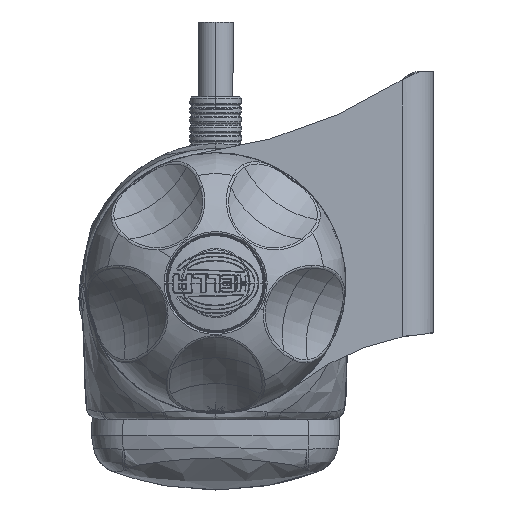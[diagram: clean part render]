
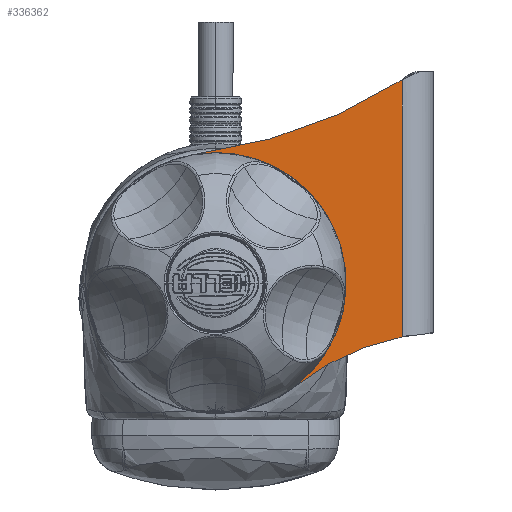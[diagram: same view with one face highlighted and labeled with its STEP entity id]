
A CAD part, left-side view. The second image highlights one B-rep face of the part: STEP entity #336362.
In plain terms, the highlighted planar face has unit normal (-1, 0, 0).
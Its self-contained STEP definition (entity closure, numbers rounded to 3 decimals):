
#336304=AXIS2_PLACEMENT_3D('Plane Axis2P3D',#336301,#336302,#336303) ;
#336184=CARTESIAN_POINT('Vertex',(-247.,7.,20.)) ;
#336188=CARTESIAN_POINT('Control Point',(-247.,7.,20.)) ;
#336189=CARTESIAN_POINT('Control Point',(-247.,7.,18.9)) ;
#336190=CARTESIAN_POINT('Control Point',(-247.,6.784,17.801)) ;
#336191=CARTESIAN_POINT('Control Point',(-247.,6.352,16.758)) ;
#336192=CARTESIAN_POINT('Control Point',(-247.,5.102,14.898)) ;
#336193=CARTESIAN_POINT('Control Point',(-247.,3.242,13.648)) ;
#336194=CARTESIAN_POINT('Control Point',(-247.,2.199,13.216)) ;
#336195=CARTESIAN_POINT('Control Point',(-247.,0.,12.784)) ;
#336196=CARTESIAN_POINT('Control Point',(-247.,-2.199,13.216)) ;
#336197=CARTESIAN_POINT('Control Point',(-247.,-3.242,13.648)) ;
#336198=CARTESIAN_POINT('Control Point',(-247.,-5.102,14.898)) ;
#336199=CARTESIAN_POINT('Control Point',(-247.,-6.352,16.758)) ;
#336200=CARTESIAN_POINT('Control Point',(-247.,-6.784,17.801)) ;
#336201=CARTESIAN_POINT('Control Point',(-247.,-7.,18.9)) ;
#336202=CARTESIAN_POINT('Control Point',(-247.,-7.,20.)) ;
#336203=CARTESIAN_POINT('Vertex',(-247.,-7.,20.)) ;
#336236=CARTESIAN_POINT('Vertex',(-247.,-30.,11.335)) ;
#336240=CARTESIAN_POINT('Control Point',(-247.,-13.001,3.508)) ;
#336241=CARTESIAN_POINT('Control Point',(-247.,-16.709,6.432)) ;
#336242=CARTESIAN_POINT('Control Point',(-247.,-20.879,8.772)) ;
#336243=CARTESIAN_POINT('Control Point',(-247.,-25.368,10.418)) ;
#336244=CARTESIAN_POINT('Control Point',(-247.,-30.,11.335)) ;
#336245=CARTESIAN_POINT('Vertex',(-247.,-13.001,3.508)) ;
#336265=CARTESIAN_POINT('Control Point',(-247.,-30.,52.684)) ;
#336266=CARTESIAN_POINT('Control Point',(-247.,-22.607,47.976)) ;
#336267=CARTESIAN_POINT('Control Point',(-247.,-14.525,44.348)) ;
#336268=CARTESIAN_POINT('Control Point',(-247.,-5.996,41.952)) ;
#336269=CARTESIAN_POINT('Control Point',(-247.,2.697,40.826)) ;
#336270=CARTESIAN_POINT('Vertex',(-247.,-30.,52.684)) ;
#336272=CARTESIAN_POINT('Vertex',(-247.,2.697,40.826)) ;
#336301=CARTESIAN_POINT('Axis2P3D Location',(-247.,-37.765,-27.904)) ;
#336307=CARTESIAN_POINT('Control Point',(-247.,-30.,11.335)) ;
#336308=CARTESIAN_POINT('Control Point',(-247.,-30.,52.684)) ;
#336311=CARTESIAN_POINT('Control Point',(-247.,2.697,40.826)) ;
#336312=CARTESIAN_POINT('Control Point',(-247.,4.149,40.638)) ;
#336313=CARTESIAN_POINT('Control Point',(-247.,7.168,39.921)) ;
#336314=CARTESIAN_POINT('Control Point',(-247.,11.426,37.844)) ;
#336315=CARTESIAN_POINT('Control Point',(-247.,15.305,34.672)) ;
#336316=CARTESIAN_POINT('Control Point',(-247.,18.227,30.794)) ;
#336317=CARTESIAN_POINT('Control Point',(-247.,20.192,26.364)) ;
#336318=CARTESIAN_POINT('Control Point',(-247.,21.119,21.717)) ;
#336319=CARTESIAN_POINT('Control Point',(-247.,20.945,16.71)) ;
#336320=CARTESIAN_POINT('Control Point',(-247.,19.63,12.036)) ;
#336321=CARTESIAN_POINT('Control Point',(-247.,17.294,7.789)) ;
#336322=CARTESIAN_POINT('Control Point',(-247.,14.159,4.236)) ;
#336323=CARTESIAN_POINT('Control Point',(-247.,10.069,1.342)) ;
#336324=CARTESIAN_POINT('Control Point',(-247.,5.554,-0.443)) ;
#336325=CARTESIAN_POINT('Control Point',(-247.,0.76,-1.157)) ;
#336326=CARTESIAN_POINT('Control Point',(-247.,-3.966,-0.814)) ;
#336327=CARTESIAN_POINT('Control Point',(-247.,-8.746,0.686)) ;
#336328=CARTESIAN_POINT('Control Point',(-247.,-11.639,2.435)) ;
#336329=CARTESIAN_POINT('Control Point',(-247.,-13.001,3.508)) ;
#336338=CARTESIAN_POINT('Control Point',(-247.,-7.,20.)) ;
#336339=CARTESIAN_POINT('Control Point',(-247.,-7.,20.916)) ;
#336340=CARTESIAN_POINT('Control Point',(-247.,-6.636,22.749)) ;
#336341=CARTESIAN_POINT('Control Point',(-247.,-5.079,25.079)) ;
#336342=CARTESIAN_POINT('Control Point',(-247.,-2.749,26.636)) ;
#336343=CARTESIAN_POINT('Control Point',(-247.,-0.916,27.)) ;
#336344=CARTESIAN_POINT('Control Point',(-247.,0.,27.)) ;
#336345=CARTESIAN_POINT('Vertex',(-247.,0.,27.)) ;
#336349=CARTESIAN_POINT('Control Point',(-247.,0.,27.)) ;
#336350=CARTESIAN_POINT('Control Point',(-247.,0.916,27.)) ;
#336351=CARTESIAN_POINT('Control Point',(-247.,2.749,26.636)) ;
#336352=CARTESIAN_POINT('Control Point',(-247.,5.079,25.079)) ;
#336353=CARTESIAN_POINT('Control Point',(-247.,6.636,22.749)) ;
#336354=CARTESIAN_POINT('Control Point',(-247.,7.,20.916)) ;
#336355=CARTESIAN_POINT('Control Point',(-247.,7.,20.)) ;
#336302=DIRECTION('Axis2P3D Direction',(1.,0.,0.)) ;
#336303=DIRECTION('Axis2P3D XDirection',(0.,1.,0.)) ;
#336332=ORIENTED_EDGE('',*,*,#336247,.T.) ;
#336333=ORIENTED_EDGE('',*,*,#336309,.T.) ;
#336334=ORIENTED_EDGE('',*,*,#336274,.T.) ;
#336335=ORIENTED_EDGE('',*,*,#336330,.T.) ;
#336358=ORIENTED_EDGE('',*,*,#336347,.F.) ;
#336359=ORIENTED_EDGE('',*,*,#336205,.F.) ;
#336360=ORIENTED_EDGE('',*,*,#336356,.F.) ;
#336361=FACE_BOUND('',#336357,.T.) ;
#336362=ADVANCED_FACE('958 128-12_001;1-FOOT_B_Short.1\\Extrude (2)',(#336336,#336361),#336305,.F.) ;
#336187=B_SPLINE_CURVE_WITH_KNOTS('',5,(#336188,#336189,#336190,#336191,#336192,#336193,#336194,#336195,#336196,#336197,#336198,#336199,#336200,#336201,#336202),.UNSPECIFIED.,.F.,.U.,(6,3,3,3,6),(0.,0.25,0.5,0.75,1.),.UNSPECIFIED.) ;
#336239=B_SPLINE_CURVE_WITH_KNOTS('',4,(#336240,#336241,#336242,#336243,#336244),.UNSPECIFIED.,.F.,.U.,(5,5),(0.,1.),.UNSPECIFIED.) ;
#336264=B_SPLINE_CURVE_WITH_KNOTS('',4,(#336265,#336266,#336267,#336268,#336269),.UNSPECIFIED.,.F.,.U.,(5,5),(0.,1.),.UNSPECIFIED.) ;
#336205=EDGE_CURVE('',#336185,#336204,#336187,.T.) ;
#336247=EDGE_CURVE('',#336246,#336237,#336239,.T.) ;
#336274=EDGE_CURVE('',#336271,#336273,#336264,.T.) ;
#336309=EDGE_CURVE('',#336237,#336271,#336306,.T.) ;
#336330=EDGE_CURVE('',#336273,#336246,#336310,.T.) ;
#336347=EDGE_CURVE('',#336204,#336346,#336337,.T.) ;
#336356=EDGE_CURVE('',#336346,#336185,#336348,.T.) ;
#336331=EDGE_LOOP('',(#336332,#336333,#336334,#336335)) ;
#336357=EDGE_LOOP('',(#336358,#336359,#336360)) ;
#336336=FACE_OUTER_BOUND('',#336331,.T.) ;
#336305=PLANE('',#336304) ;
#336185=VERTEX_POINT('',#336184) ;
#336204=VERTEX_POINT('',#336203) ;
#336237=VERTEX_POINT('',#336236) ;
#336246=VERTEX_POINT('',#336245) ;
#336271=VERTEX_POINT('',#336270) ;
#336273=VERTEX_POINT('',#336272) ;
#336346=VERTEX_POINT('',#336345) ;
#336306=(BOUNDED_CURVE()B_SPLINE_CURVE(1,(#336307,#336308),.UNSPECIFIED.,.F.,.U.)B_SPLINE_CURVE_WITH_KNOTS((2,2),(0.,41.349),.UNSPECIFIED.)CURVE()GEOMETRIC_REPRESENTATION_ITEM()RATIONAL_B_SPLINE_CURVE((1.,1.))REPRESENTATION_ITEM('')) ;
#336310=(BOUNDED_CURVE()B_SPLINE_CURVE(3,(#336311,#336312,#336313,#336314,#336315,#336316,#336317,#336318,#336319,#336320,#336321,#336322,#336323,#336324,#336325,#336326,#336327,#336328,#336329),.UNSPECIFIED.,.F.,.U.)B_SPLINE_CURVE_WITH_KNOTS((4,1,1,1,1,1,1,1,1,1,1,1,1,1,1,1,4),(0.,4.42,9.318,14.21,19.446,23.865,28.763,33.656,38.891,43.311,48.209,53.102,58.337,62.756,67.655,72.547,77.783),.UNSPECIFIED.)CURVE()GEOMETRIC_REPRESENTATION_ITEM()RATIONAL_B_SPLINE_CURVE((1.,1.,1.,1.,1.,1.,1.,1.,1.,1.,1.,1.,1.,1.,1.,1.,1.,1.,1.))REPRESENTATION_ITEM('')) ;
#336337=(BOUNDED_CURVE()B_SPLINE_CURVE(3,(#336338,#336339,#336340,#336341,#336342,#336343,#336344),.UNSPECIFIED.,.F.,.U.)B_SPLINE_CURVE_WITH_KNOTS((4,1,1,1,4),(0.,2.793,5.587,8.38,11.174),.UNSPECIFIED.)CURVE()GEOMETRIC_REPRESENTATION_ITEM()RATIONAL_B_SPLINE_CURVE((1.,1.,1.,1.,1.,1.,1.))REPRESENTATION_ITEM('')) ;
#336348=(BOUNDED_CURVE()B_SPLINE_CURVE(3,(#336349,#336350,#336351,#336352,#336353,#336354,#336355),.UNSPECIFIED.,.F.,.U.)B_SPLINE_CURVE_WITH_KNOTS((4,1,1,1,4),(0.,2.793,5.587,8.38,11.174),.UNSPECIFIED.)CURVE()GEOMETRIC_REPRESENTATION_ITEM()RATIONAL_B_SPLINE_CURVE((1.,1.,1.,1.,1.,1.,1.))REPRESENTATION_ITEM('')) ;
